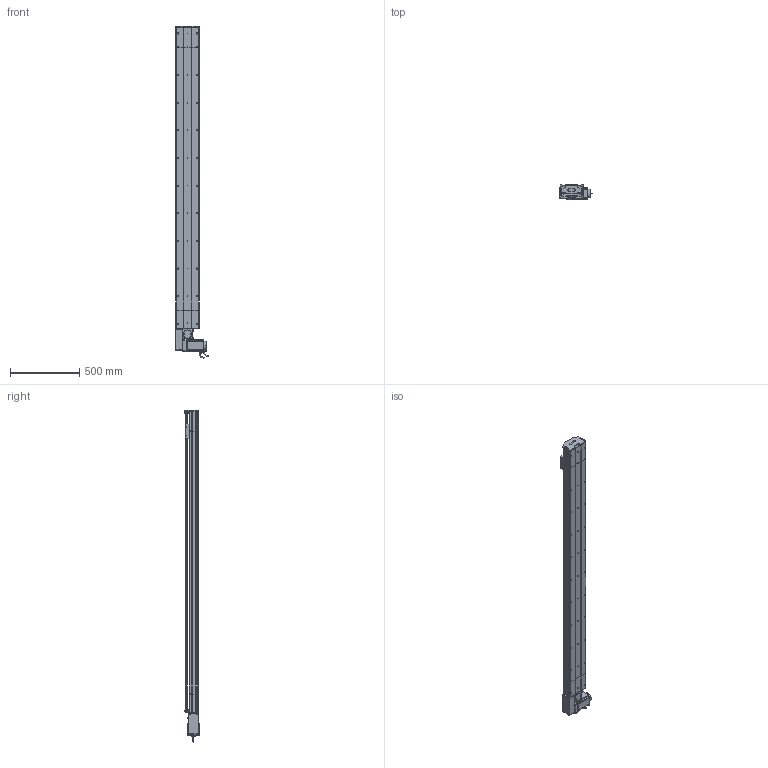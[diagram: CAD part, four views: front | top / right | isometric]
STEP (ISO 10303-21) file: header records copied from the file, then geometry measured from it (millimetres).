
FILE_DESCRIPTION (( 'STEP AP214' ), '1' );
FILE_NAME ('D17 TBN RH S1900.STEP', '2010-06-30T11:15:06', ( 'Christophe Gaillard' ), ( 'SGA' ), 'SwSTEP 2.0', 'SolidWorks 2010', '' );
FILE_SCHEMA (( 'AUTOMOTIVE_DESIGN' ));
Length unit declared in the file: millimetre
Products named in the file (40): Couroie tail D17B_Default; poulie tail_Default; Vis M5 L16-2_Default; poulie head_Default; Couroie+ rail D17 Course 1900 ; vis M5 L12_Default; Head RH D17B_Default; vis M5 L25_Default; corpl head D17 _Default; couvercle D17B head_Default; corp tail D17B+100_Default; Renvoi RH_Default; cache arbre D17_Default; Tail D17B+100_Default; Plaque racord D17_Default; plaque de  bout head D17B RH_Default; Chariot D17 TBN; couvercle D17B_Default; Rail D17B; vis M5 L8 90°_Default; chariot D17 TBN; D17 TBN RH S1900; plaque de  bout tail D17B_Default; vis M5 L5_Default; cache D17_Default; vis M5 L16_Default; tete d''axe poulie D17B; guide D17; Arbre+rail head D17B; corp D17B 1900_Default; Moteur motionking 90BLDC125A-640; couroie head D17_Default; avant 90BLDC125A-640; corps 90BLDC125A-640; course 1900 D17B_Default; codeur 90BLDC125-640; Conecteur2_Default; Conecteur_Default; vis M5 L70_Default; couvercle D17B course L1900_Default
Assembly tree (66 placements, depth 4):
  D17 TBN RH S1900
    Head RH D17B_Default
      vis M5 L12_Default  x8
      vis M5 L70_Default  x4
      vis M5 L5_Default  x4
      Plaque racord D17_Default
      vis M5 L16_Default  x2
      vis M5 L25_Default  x2
      cache D17_Default  x2
      Vis M5 L16-2_Default  x4
      cache arbre D17_Default
      Moteur motionking 90BLDC125A-640
        avant 90BLDC125A-640
        Conecteur2_Default
        Conecteur_Default
        codeur 90BLDC125-640
        corps 90BLDC125A-640
      corpl head D17 _Default
      plaque de  bout head D17B RH_Default
      Arbre+rail head D17B
      couvercle D17B head_Default
      couroie head D17_Default
      Renvoi RH_Default
      poulie head_Default
    Tail D17B+100_Default
      plaque de  bout tail D17B_Default
      vis M5 L8 90°_Default  x2
      tete d''axe poulie D17B
      poulie tail_Default
      vis M5 L12_Default  x4
      vis M5 L25_Default  x2
      Rail D17B
      couvercle D17B_Default
      corp tail D17B+100_Default
      Couroie tail D17B_Default
    chariot D17 TBN
      guide D17  x2
      Chariot D17 TBN
    course 1900 D17B_Default
      couvercle D17B course L1900_Default
      Couroie+ rail D17 Course 1900 
      corp D17B 1900_Default
Bounding box: 245.2 x 105.65 x 2400.95 mm (x, y, z)
Volume: 13626675.1 mm3; surface area: 3921201 mm2
Topology: 89 solids, 89 shells, 2595 faces, 6623 edges, 4270 vertices
Faces by surface type: plane 1537, cylinder 761, bspline 136, cone 80, torus 77, sphere 4
Entity records: 84093 total; most frequent: CARTESIAN_POINT 25053, ORIENTED_EDGE 10418, DIRECTION 9838, EDGE_CURVE 5209, LINE 3460, VECTOR 3460, VERTEX_POINT 3414, AXIS2_PLACEMENT_3D 3189
